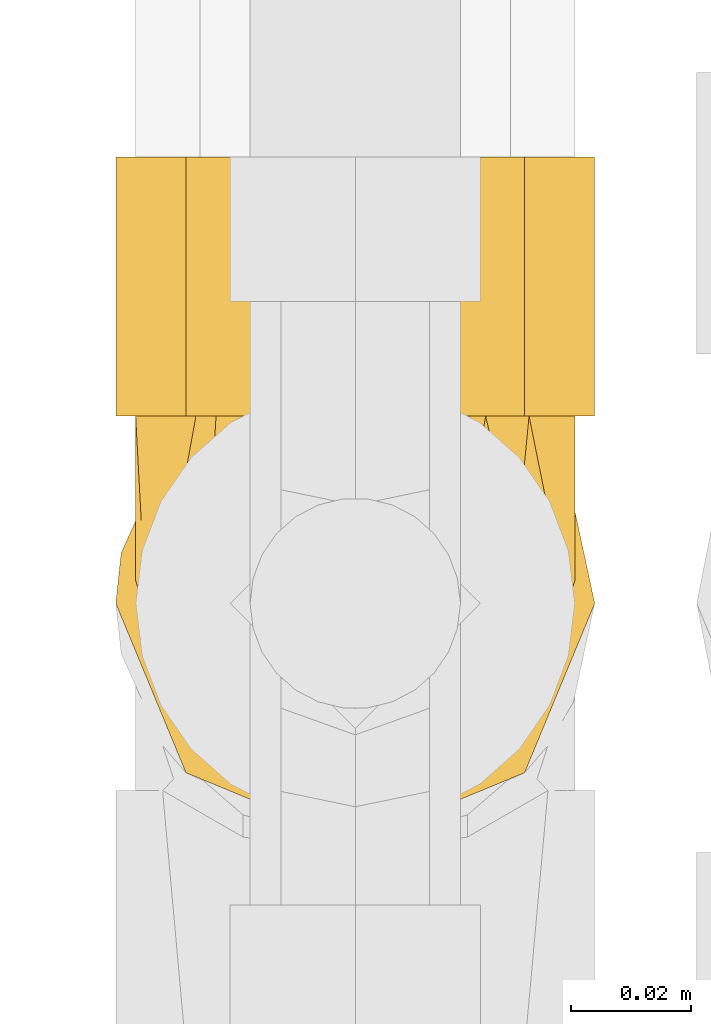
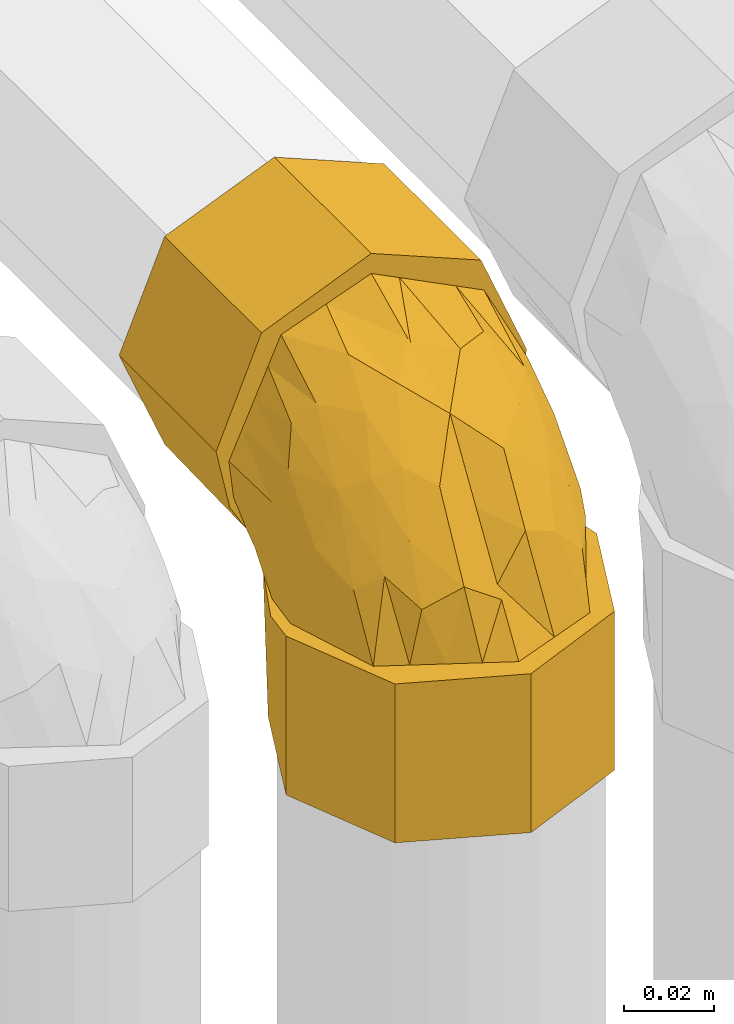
# One storey, part 240 of 652: 1 covering.
"""IFC2X3 building model written with IfcOpenShell, lengths in millimetres."""

from ifc_helpers import new_model, entity, si_unit, converted_unit, direction, frame, origin, place, context, subcontext, project, spatial, faceted_brep, material, type_object, element, save


model = new_model("IFC2X3")

# Units and contexts
model_context = context("Model", 3, precision=0.01, world=frame((0.0, 0.0, 308426.39999999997)), true_north=direction((6.123233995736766e-17, 1.0)))
plan_context = context("Plan", 3, precision=0.01, world=frame((0.0, 0.0, 308426.39999999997)), true_north=direction((6.123233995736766e-17, 1.0)))
body_context = subcontext(model_context, "Body", "Model", "MODEL_VIEW")
ifc_project = project(units=[si_unit("LENGTHUNIT", "METRE", prefix="MILLI"), si_unit("AREAUNIT", "SQUARE_METRE"), si_unit("VOLUMEUNIT", "CUBIC_METRE"), converted_unit("PLANEANGLEUNIT", "DEGREE", entity("IfcPlaneAngleMeasure", 0.017453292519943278), si_unit("PLANEANGLEUNIT", "RADIAN"), dimensions=[0, 0, 0, 0, 0, 0, 0])], contexts=[model_context, plan_context])

# Site, building, storey
site_placement = place(None, origin())
site = spatial("IfcSite", under=ifc_project, at=site_placement, Name="Default", CompositionType="ELEMENT")
building_placement = place(site_placement, origin())
building = spatial("IfcBuilding", under=site, at=building_placement, CompositionType="ELEMENT")
storey_placement = place(building_placement, frame((0.0, 0.0, 1730.6999999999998)))
storey = spatial("IfcBuildingStorey", under=building, at=storey_placement, Name="EG_Produktion_FFB", CompositionType="ELEMENT", Elevation=1730.6999999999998)

# Covering
ifc_material = material(Name="Dämmung - Armaflex-Schlauch")
covering_type = type_object("IfcCoveringType", Name="Rohrdämmung außen:Armaflex-Schlauch", PredefinedType="INSULATION")
covering_placement = place(storey_placement, frame((76838.64672776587, 51596.67508173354, 3825.9157499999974)))
element("IfcCovering", 1, at=covering_placement, inside=storey, type_object=covering_type, material=ifc_material, Name="Rohrdämmung außen:Armaflex-Schlauch", ObjectType="Rohrdämmung außen:Armaflex-Schlauch", PredefinedType="INSULATION", context=body_context, shape_type="Brep", body=[
    faceted_brep([(76.62300673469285, 55.2934460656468, 43.00575000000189), (77.08951820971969, 51.30566939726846, 43.0057500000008), (77.81577223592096, 45.09759303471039, 43.00575000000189), (74.37467999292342, 37.461729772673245, 43.0057500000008), (70.93358774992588, 29.82586651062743, 43.0057500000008), (67.70657048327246, 22.665040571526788, 43.0057500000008), (64.47955321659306, 15.504214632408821, 43.00575000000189), (52.916412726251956, 11.253230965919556, 43.0057500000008), (41.35327223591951, 7.002247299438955, 43.00575000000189), (34.14184701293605, 10.648721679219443, 43.0057500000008), (26.930421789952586, 14.29519605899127, 43.0057500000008), (19.718996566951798, 17.94167043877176, 43.0057500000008), (12.507571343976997, 21.588144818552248, 43.00575000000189), (10.125063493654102, 28.94181716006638, 43.0057500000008), (7.507917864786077, 37.019705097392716, 43.0057500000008), (4.890772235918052, 45.09759303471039, 43.00575000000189), (5.617026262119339, 51.30566939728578, 43.0057500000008), (6.083537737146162, 55.2934460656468, 43.00575000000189), (7.721836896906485, 60.125242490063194, 43.0057500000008), (9.36013605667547, 64.95703891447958, 43.00575000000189), (5.923104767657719, 57.339633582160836, 43.00575000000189), (2.486073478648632, 49.72222824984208, 43.00575000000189), (1.5952722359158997, 41.35327223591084, 43.00575000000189), (4.907228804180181, 33.357501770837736, 43.00575000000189), (7.417696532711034, 27.296696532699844, 43.00575000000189), (10.3289086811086, 20.268408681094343, 43.00575000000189), (13.240120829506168, 13.240120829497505, 43.00575000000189), (20.26840868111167, 10.328908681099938, 43.00575000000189), (27.296696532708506, 7.417696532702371, 43.00575000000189), (34.32498438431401, 4.506484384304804, 43.00575000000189), (41.35327223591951, 1.5952722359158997, 43.00575000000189), (49.34904276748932, 4.907228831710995, 43.00575000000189), (55.40984793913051, 7.417696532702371, 43.00575000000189), (62.43813579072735, 10.328908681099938, 43.00575000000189), (69.46642364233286, 13.240120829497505, 43.00575000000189), (72.37763579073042, 20.268408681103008, 43.00575000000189), (75.28884793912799, 27.296696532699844, 43.00575000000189), (77.79931619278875, 33.35750303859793, 43.00575000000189), (81.11127223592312, 41.35327223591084, 43.00575000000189), (79.35208118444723, 49.52928377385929, 43.0057500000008), (77.59289013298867, 57.70529531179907, 43.00575000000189), (73.34640841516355, 64.95703891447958, 43.00575000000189), (74.98470757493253, 60.125242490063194, 43.0057500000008), (4.506484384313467, 48.38156008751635, 0.0), (7.417696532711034, 55.409847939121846, 0.0), (10.328908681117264, 62.43813579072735, 0.0), (13.240120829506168, 69.46642364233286, 0.0), (20.26840868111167, 72.37763579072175, 0.0), (27.296696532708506, 75.28884793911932, 0.0), (33.35750154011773, 77.79931557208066, 0.0), (41.35327223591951, 81.11127223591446, 0.0), (49.34904130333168, 77.79931624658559, 0.0), (55.40984793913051, 75.28884793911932, 0.0), (62.43813579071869, 72.37763579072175, 0.0), (69.46642364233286, 69.46642364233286, 0.0), (72.37763579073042, 62.43813579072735, 0.0), (75.28884793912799, 55.409847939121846, 0.0), (78.20006008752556, 48.38156008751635, 0.0), (81.11127223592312, 41.35327223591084, 0.0), (78.20006008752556, 34.324984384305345, 0.0), (75.28884793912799, 27.296696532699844, 0.0), (72.37763579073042, 20.268408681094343, 0.0), (69.46642364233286, 13.240120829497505, 0.0), (62.43813579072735, 10.328908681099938, 0.0), (55.40984793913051, 7.417696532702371, 0.0), (48.38156008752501, 4.506484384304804, 0.0), (41.35327223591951, 1.5952722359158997, 0.0), (34.32498438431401, 4.506484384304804, 0.0), (27.296696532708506, 7.417696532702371, 0.0), (20.26840868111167, 10.328908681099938, 0.0), (13.240120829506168, 13.240120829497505, 0.0), (8.219185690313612, 25.36173053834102, 0.0), (4.907228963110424, 33.3575013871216, 0.0), (1.5952722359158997, 41.35327223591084, 0.0), (16.057183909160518, 70.72483298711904, 39.143139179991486), (41.35327223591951, 81.11127223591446, 32.887345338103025), (32.053751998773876, 78.80194964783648, 34.08393684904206), (22.754231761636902, 76.4926270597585, 35.28052835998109), (27.40399188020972, 77.64728835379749, 34.68223260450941), (66.6493605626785, 70.72483298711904, 39.143139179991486), (50.65279247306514, 78.80194964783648, 34.08393684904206), (59.952312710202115, 76.4926270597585, 35.28052835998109), (45.661736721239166, 80.04136388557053, 33.441725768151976), (81.11127223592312, 72.43177223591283, 74.08425000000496), (77.7993156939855, 72.43177223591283, 82.08002040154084), (75.28884793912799, 72.43177223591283, 88.14082570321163), (72.37763579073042, 72.43177223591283, 95.16911355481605), (69.46642364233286, 72.43177223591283, 102.19740140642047), (62.43813579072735, 72.43177223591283, 105.10861355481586), (55.40984793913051, 72.43177223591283, 108.01982570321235), (49.34904137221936, 72.43177223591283, 110.53029398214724), (41.35327223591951, 72.43177223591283, 113.84225000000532), (33.357502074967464, 72.43177223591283, 110.53029355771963), (27.296696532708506, 72.43177223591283, 108.01982570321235), (20.26840868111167, 72.43177223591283, 105.10861355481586), (13.240120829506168, 72.43177223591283, 102.19740140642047), (10.3289086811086, 72.43177223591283, 95.16911355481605), (7.417696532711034, 72.43177223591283, 88.14082570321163), (4.506484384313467, 72.43177223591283, 81.1125378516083), (1.5952722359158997, 72.43177223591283, 74.08425000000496), (3.3544632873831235, 72.43177223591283, 65.90823846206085), (5.113654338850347, 72.43177223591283, 57.73222692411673), (9.36013605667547, 72.43177223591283, 50.48048332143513), (7.721836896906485, 72.43177223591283, 55.31227974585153), (6.083537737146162, 72.43177223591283, 60.1440761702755), (5.617026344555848, 72.43177223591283, 64.13185213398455), (5.253899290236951, 72.43177223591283, 67.23589066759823), (4.890772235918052, 72.43177223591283, 70.33992920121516), (8.22731807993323, 72.43177223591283, 77.74037965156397), (11.563863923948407, 72.43177223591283, 85.14083010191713), (14.900409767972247, 72.43177223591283, 92.54128055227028), (18.236955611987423, 72.43177223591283, 99.94173100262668), (24.01603476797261, 72.43177223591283, 102.06511698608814), (29.795113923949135, 72.43177223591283, 104.18850296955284), (41.35327223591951, 72.43177223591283, 108.43527493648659), (48.56686113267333, 72.43177223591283, 104.78589932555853), (55.78045002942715, 72.43177223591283, 101.13652371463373), (62.99403892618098, 72.43177223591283, 97.48714810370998), (70.2076278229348, 72.43177223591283, 93.83777249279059), (72.10966392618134, 72.43177223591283, 87.96331166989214), (74.01170002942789, 72.43177223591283, 82.088850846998), (77.81577223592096, 72.43177223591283, 70.33992920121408), (77.45264518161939, 72.43177223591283, 67.23589066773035), (77.08951812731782, 72.43177223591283, 64.13185213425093), (76.62300673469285, 72.43177223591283, 60.1440761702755), (74.98470757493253, 72.43177223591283, 55.31227974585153), (73.34640841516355, 72.43177223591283, 50.48048332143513), (76.7834397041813, 72.43177223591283, 58.09788865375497), (80.22047099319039, 72.43177223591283, 65.71529398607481), (4.506484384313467, 115.43752223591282, 81.1125378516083), (7.417696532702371, 115.43752223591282, 88.14082570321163), (10.3289086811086, 115.43752223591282, 95.16911355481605), (13.240120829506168, 115.43752223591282, 102.19740140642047), (25.361730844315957, 115.43752223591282, 107.21833667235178), (33.35750154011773, 115.43752223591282, 110.5302933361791), (41.35327223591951, 115.43752223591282, 113.84225000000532), (48.38156008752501, 115.43752223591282, 110.93103785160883), (55.40984793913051, 115.43752223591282, 108.01982570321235), (62.43813579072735, 115.43752223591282, 105.10861355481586), (69.46642364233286, 115.43752223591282, 102.19740140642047), (72.37763579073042, 115.43752223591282, 95.16911355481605), (75.28884793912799, 115.43752223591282, 88.14082570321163), (78.20006008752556, 115.43752223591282, 81.1125378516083), (81.11127223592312, 115.43752223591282, 74.08425000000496), (78.20006008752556, 115.43752223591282, 67.05596214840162), (75.28884793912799, 115.43752223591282, 60.0276742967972), (72.37763579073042, 115.43752223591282, 52.99938644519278), (69.46642364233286, 115.43752223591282, 45.97109859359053), (62.43813579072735, 115.43752223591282, 43.059886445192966), (55.40984793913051, 115.43752223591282, 40.14867429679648), (49.34904309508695, 115.43752223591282, 37.63820673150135), (41.35327223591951, 115.43752223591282, 34.32625000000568), (33.357503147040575, 115.43752223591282, 37.63820599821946), (27.296696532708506, 115.43752223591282, 40.14867429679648), (20.26840868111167, 115.43752223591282, 43.059886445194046), (13.240120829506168, 115.43752223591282, 45.97109859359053), (10.3289086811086, 115.43752223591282, 52.99938644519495), (7.417696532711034, 115.43752223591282, 60.02767429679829), (4.907228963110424, 115.43752223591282, 66.08847915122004), (1.5952722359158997, 115.43752223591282, 74.08425000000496), (41.35327223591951, 82.55017689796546, 34.32625000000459), (32.05375199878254, 81.35358538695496, 36.63557258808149), (22.754231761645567, 80.1569938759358, 38.94489517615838), (32.73634342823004, 81.44141605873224, 36.466066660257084), (16.057183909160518, 76.29438305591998, 44.71268924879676), (66.6493605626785, 76.29438305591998, 44.71268924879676), (50.65279247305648, 81.35358538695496, 36.63557258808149), (59.95231271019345, 80.1569938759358, 38.94489517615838), (49.97020104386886, 81.44141605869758, 36.46606666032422), (45.66173663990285, 81.99579647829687, 35.39615833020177), (12.124299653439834, 57.27123137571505, 87.24641648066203), (11.869467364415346, 29.19384711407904, 59.26416717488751), (8.37855585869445, 40.00181649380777, 64.79374823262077), (4.890772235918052, 51.66581364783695, 54.444618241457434), (5.704393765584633, 44.427899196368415, 57.536905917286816), (5.817790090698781, 55.10669322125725, 69.53966351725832), (14.285355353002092, 40.745249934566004, 78.61751170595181), (17.28695187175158, 24.864680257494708, 63.635451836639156), (41.35327223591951, 37.51558616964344, 91.69909945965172), (33.28725759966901, 46.80160812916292, 97.09443549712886), (32.93381303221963, 27.552566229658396, 80.9198302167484), (41.35327223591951, 14.63058201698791, 55.179087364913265), (31.928717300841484, 14.912364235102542, 61.704602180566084), (20.52698465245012, 36.22272357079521, 81.91303386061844), (4.890772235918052, 70.04816151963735, 68.51539346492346), (4.890772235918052, 67.66455080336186, 66.69085772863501), (4.890772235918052, 62.897329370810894, 63.04178625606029), (4.890772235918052, 57.28157150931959, 58.74320224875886), (17.193351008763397, 54.943364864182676, 92.25168823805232), (23.505882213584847, 24.559357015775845, 71.24462333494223), (22.489971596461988, 17.330981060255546, 57.41110915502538), (24.51843234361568, 45.83612952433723, 92.66741072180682), (26.85666627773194, 33.94288682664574, 84.61256912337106), (41.35327223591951, 54.973679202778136, 100.06718719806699), (41.35327223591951, 56.13067021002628, 100.62176107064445), (41.35327223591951, 22.25891673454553, 67.35242472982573), (41.35327223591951, 25.996342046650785, 73.31662804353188), (41.35327223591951, 29.887251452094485, 79.52576209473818), (26.96209309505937, 57.75290600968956, 100.50080532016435), (8.907205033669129, 53.091887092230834, 78.60353708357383), (41.35327223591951, 16.49929467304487, 58.1611890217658), (4.890772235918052, 48.11331321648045, 48.2577699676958), (5.540058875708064, 55.88980313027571, 48.61142237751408), (6.751916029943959, 61.147999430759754, 47.90470472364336), (41.35327223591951, 81.8038063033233, 33.633715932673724), (6.670824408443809, 63.97836606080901, 51.45915668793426), (11.210836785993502, 70.52863846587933, 44.908883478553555), (6.751916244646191, 67.53281820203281, 54.28952252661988), (5.555021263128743, 66.92088050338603, 59.51870107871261), (77.16648559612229, 55.889803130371, 48.61142237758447), (77.81577223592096, 48.11331321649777, 48.25776996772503), (71.49570746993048, 70.52863882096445, 44.90888338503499), (76.03571971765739, 63.978366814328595, 51.45915593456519), (75.95462843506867, 61.1479994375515, 47.90470469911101), (77.81577223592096, 57.281571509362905, 58.7432022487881), (75.95462822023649, 67.53281822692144, 54.28952251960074), (77.15152320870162, 66.92088050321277, 59.51870107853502), (77.8157722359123, 67.66455080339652, 66.69085772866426), (77.81577223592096, 51.66581364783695, 54.444618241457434), (77.81577223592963, 70.04816151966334, 68.51539346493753), (77.81577223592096, 62.8973293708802, 63.04178625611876), (74.80598737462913, 37.54867793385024, 59.61186262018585), (71.5622524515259, 29.753616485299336, 58.147927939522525), (75.79919171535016, 58.23539538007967, 76.41301603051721), (50.8847120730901, 30.219684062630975, 83.37405497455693), (65.94296495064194, 38.437885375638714, 79.87091005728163), (73.58946657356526, 47.150672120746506, 74.44381850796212), (68.10768824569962, 50.851200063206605, 86.9025329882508), (76.81449307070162, 50.71304963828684, 66.09863101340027), (76.81985109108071, 42.39813250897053, 55.98858201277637), (67.36791849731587, 29.78207227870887, 67.81026209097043), (60.18508487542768, 39.604136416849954, 86.64625364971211), (51.08904624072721, 49.78456672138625, 98.35278997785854), (60.01109950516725, 54.9861016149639, 96.79734628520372), (73.08709853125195, 58.13081411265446, 83.33506495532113), (58.13792656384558, 19.784818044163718, 64.80279365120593), (61.63866824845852, 29.107014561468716, 74.76137203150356), (65.97235995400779, 21.418901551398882, 55.9952437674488), (49.62375736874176, 18.405512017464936, 68.64794002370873)], [[[0, 1, 2, 3, 4, 5, 6, 7, 8, 9, 10, 11, 12, 13, 14, 15, 16, 17, 18, 19, 20, 21, 22, 23, 24, 25, 26, 27, 28, 29, 30, 31, 32, 33, 34, 35, 36, 37, 38, 39, 40, 41, 42]], [[43, 44, 45, 46, 47, 48, 49, 50, 51, 52, 53, 54, 55, 56, 57, 58, 59, 60, 61, 62, 63, 64, 65, 66, 67, 68, 69, 70, 71, 72, 73]], [[47, 46, 74]], [[75, 50, 49]], [[76, 75, 49]], [[48, 77, 78, 76]], [[47, 74, 77]], [[44, 20, 45]], [[43, 21, 44]], [[46, 19, 74]], [[77, 48, 47]], [[44, 21, 20]], [[43, 22, 21]], [[48, 76, 49]], [[43, 73, 22]], [[45, 20, 19]], [[19, 46, 45]], [[23, 22, 73, 72, 71, 70, 26, 25, 24]], [[26, 70, 69, 68, 67, 66, 30, 29, 28, 27]], [[38, 37, 36, 35, 34, 62, 61, 60, 59, 58]], [[30, 66, 65, 64, 63, 62, 34, 33, 32, 31]], [[56, 40, 39]], [[53, 79, 54]], [[39, 57, 56]], [[41, 55, 54]], [[40, 55, 41]], [[80, 52, 51]], [[52, 80, 81]], [[58, 57, 38]], [[51, 75, 82, 80]], [[38, 57, 39]], [[79, 53, 81]], [[55, 40, 56]], [[51, 50, 75]], [[53, 52, 81]], [[79, 41, 54]], [[83, 84, 85, 86, 87, 88, 89, 90, 91, 92, 93, 94, 95, 96, 97, 98, 99, 100, 101, 102, 103, 104, 105, 106, 107, 108, 109, 110, 111, 112, 113, 114, 115, 116, 117, 118, 119, 120, 121, 122, 123, 124, 125, 126, 127, 128]], [[129, 130, 131, 132, 133, 134, 135, 136, 137, 138, 139, 140, 141, 142, 143, 144, 145, 146, 147, 148, 149, 150, 151, 152, 153, 154, 155, 156, 157, 158, 159]], [[135, 134, 133, 132, 95, 94, 93, 92, 91]], [[95, 132, 131, 130, 129, 159, 99, 98, 97, 96]], [[159, 158, 157, 100]], [[101, 156, 102]], [[99, 159, 100]], [[101, 100, 157]], [[152, 151, 160]], [[102, 156, 155]], [[153, 161, 162]], [[161, 153, 152]], [[152, 160, 163, 161]], [[154, 164, 155]], [[164, 154, 162]], [[156, 101, 157]], [[154, 153, 162]], [[164, 102, 155]], [[148, 147, 165]], [[149, 166, 150]], [[166, 149, 167]], [[160, 151, 150]], [[148, 165, 167]], [[145, 127, 146]], [[144, 128, 145]], [[147, 126, 165]], [[167, 149, 148]], [[145, 128, 127]], [[144, 83, 128]], [[150, 166, 168, 169, 160]], [[144, 143, 83]], [[146, 127, 126]], [[126, 147, 146]], [[91, 90, 89, 88, 87, 139, 138, 137, 136, 135]], [[141, 140, 139, 87, 86, 85, 84, 83, 143, 142]], [[109, 170, 110]], [[13, 171, 172]], [[14, 13, 172]], [[173, 174, 175]], [[176, 171, 177]], [[15, 14, 174]], [[178, 179, 180]], [[9, 181, 182]], [[172, 175, 174]], [[13, 12, 171]], [[12, 11, 177]], [[176, 177, 183]], [[175, 107, 184, 185, 186, 187, 173]], [[188, 170, 176]], [[176, 172, 171]], [[189, 190, 182]], [[11, 10, 190]], [[177, 11, 190]], [[170, 188, 110]], [[191, 183, 192]], [[179, 178, 193, 194]], [[182, 190, 10]], [[189, 182, 180]], [[177, 190, 189]], [[182, 10, 9]], [[182, 195, 180]], [[177, 189, 183]], [[177, 171, 12]], [[180, 195, 196, 197, 178]], [[113, 179, 194]], [[112, 111, 198, 113]], [[198, 111, 188]], [[194, 114, 113]], [[179, 191, 192]], [[199, 175, 172]], [[199, 108, 175]], [[172, 176, 199]], [[188, 111, 110]], [[199, 170, 109]], [[183, 188, 176]], [[108, 199, 109]], [[188, 191, 198]], [[108, 107, 175]], [[176, 170, 199]], [[192, 189, 180]], [[188, 183, 191]], [[189, 192, 183]], [[179, 192, 180]], [[181, 9, 8]], [[182, 181, 200, 195]], [[191, 179, 198]], [[179, 113, 198]], [[174, 173, 201, 15]], [[172, 174, 14]], [[173, 202, 201]], [[173, 187, 203]], [[18, 203, 19]], [[201, 17, 16, 15]], [[204, 76, 163]], [[74, 164, 162, 77]], [[163, 76, 78, 77, 162, 161]], [[205, 102, 206]], [[206, 164, 74]], [[106, 105, 104, 185, 184, 107]], [[205, 207, 102]], [[186, 185, 208, 187]], [[204, 75, 76]], [[163, 160, 204]], [[205, 206, 19]], [[164, 206, 102]], [[203, 205, 19]], [[19, 206, 74]], [[201, 202, 17]], [[17, 202, 18]], [[203, 202, 173]], [[18, 202, 203]], [[102, 207, 103]], [[103, 208, 104]], [[207, 205, 187]], [[208, 103, 207]], [[208, 185, 104]], [[187, 208, 207]], [[203, 187, 205]], [[204, 160, 169]], [[209, 210, 0]], [[169, 168, 166, 167, 81, 80, 82]], [[41, 211, 212]], [[1, 0, 210, 2]], [[213, 212, 214]], [[204, 169, 82]], [[79, 165, 211]], [[126, 125, 215]], [[212, 211, 126]], [[204, 82, 75]], [[167, 165, 79, 81]], [[216, 124, 217]], [[218, 209, 213]], [[122, 121, 219, 217, 124, 123]], [[41, 79, 211]], [[211, 165, 126]], [[209, 0, 42]], [[125, 124, 216]], [[126, 215, 212]], [[125, 216, 215]], [[220, 214, 216, 217]], [[213, 42, 41]], [[212, 213, 41]], [[210, 209, 218]], [[214, 212, 215]], [[209, 42, 213]], [[215, 216, 214]], [[218, 213, 214]], [[4, 221, 222]], [[223, 121, 120]], [[224, 178, 197, 196]], [[225, 226, 227]], [[228, 226, 221]], [[229, 218, 228]], [[222, 226, 230]], [[231, 232, 224]], [[3, 229, 221]], [[233, 232, 231]], [[234, 223, 120]], [[229, 2, 210, 218]], [[224, 235, 236]], [[4, 3, 221]], [[228, 218, 214, 220, 217, 219, 121]], [[237, 222, 230]], [[6, 235, 7]], [[235, 6, 237]], [[238, 200, 7]], [[228, 223, 226]], [[224, 238, 235]], [[234, 226, 223]], [[227, 117, 233]], [[193, 232, 115]], [[224, 232, 178]], [[115, 114, 194, 193]], [[235, 237, 236]], [[238, 224, 196]], [[226, 222, 221]], [[222, 237, 5]], [[5, 237, 6]], [[5, 4, 222]], [[237, 230, 236]], [[7, 200, 181, 8]], [[7, 235, 238]], [[238, 196, 195, 200]], [[227, 118, 117]], [[193, 178, 232]], [[231, 236, 225]], [[233, 117, 116]], [[232, 233, 116]], [[227, 233, 231]], [[229, 3, 2]], [[228, 221, 229]], [[121, 223, 228]], [[119, 118, 234, 120]], [[234, 118, 227]], [[227, 226, 234]], [[232, 116, 115]], [[225, 236, 230]], [[224, 236, 231]], [[226, 225, 230]], [[231, 225, 227]]]),
])

save(model, "model.ifc")
